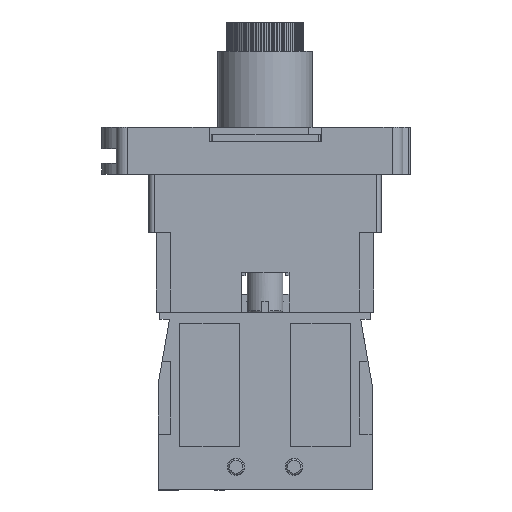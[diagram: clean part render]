
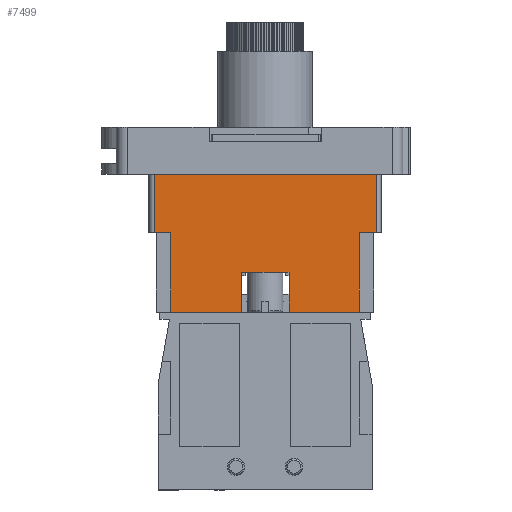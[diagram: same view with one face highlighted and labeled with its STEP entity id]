
A CAD part, left-side view. The second image highlights one B-rep face of the part: STEP entity #7499.
In plain terms, the highlighted planar face has unit normal (-1, 0, 0) as drawn and (0, -1, 0) by its records, which use the part's own axes.
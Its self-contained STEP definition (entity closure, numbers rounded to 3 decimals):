
#219 = ORIENTED_EDGE ( 'NONE', *, *, #31414, .F. ) ;
#984 = EDGE_CURVE ( 'NONE', #31559, #12456, #6550, .T. ) ;
#1021 = VERTEX_POINT ( 'NONE', #13630 ) ;
#2400 = LINE ( 'NONE', #10768, #14131 ) ;
#2426 = CARTESIAN_POINT ( 'NONE',  ( 3.3, -15., 5.5 ) ) ;
#2587 = ORIENTED_EDGE ( 'NONE', *, *, #23613, .T. ) ;
#2629 = DIRECTION ( 'NONE',  ( 1., 0., 0. ) ) ;
#3709 = CARTESIAN_POINT ( 'NONE',  ( 13., -15., 11. ) ) ;
#3855 = ORIENTED_EDGE ( 'NONE', *, *, #23417, .T. ) ;
#4325 = CARTESIAN_POINT ( 'NONE',  ( -3.3, -15., 5.5 ) ) ;
#5096 = DIRECTION ( 'NONE',  ( 1., 0., 0. ) ) ;
#5200 = ORIENTED_EDGE ( 'NONE', *, *, #7291, .T. ) ;
#5432 = VERTEX_POINT ( 'NONE', #15747 ) ;
#6111 = VECTOR ( 'NONE', #39869, 1000. ) ;
#6206 = DIRECTION ( 'NONE',  ( 0., 1., 0. ) ) ;
#6550 = LINE ( 'NONE', #4325, #36023 ) ;
#6599 = CARTESIAN_POINT ( 'NONE',  ( 16., -15., 11. ) ) ;
#7291 = EDGE_CURVE ( 'NONE', #29207, #39216, #39866, .T. ) ;
#7499 = ADVANCED_FACE ( 'NONE', ( #26053 ), #21624, .F. ) ;
#7874 = CARTESIAN_POINT ( 'NONE',  ( 13., -15., 11. ) ) ;
#8195 = VECTOR ( 'NONE', #32968, 1000. ) ;
#8287 = CARTESIAN_POINT ( 'NONE',  ( 3.3, -15., 5.5 ) ) ;
#8299 = VERTEX_POINT ( 'NONE', #12880 ) ;
#9401 = VECTOR ( 'NONE', #30472, 1000. ) ;
#10215 = DIRECTION ( 'NONE',  ( -1., 0., 0. ) ) ;
#10768 = CARTESIAN_POINT ( 'NONE',  ( -15.3, -15., 11. ) ) ;
#11486 = LINE ( 'NONE', #6599, #36543 ) ;
#11832 = LINE ( 'NONE', #16962, #16215 ) ;
#12392 = DIRECTION ( 'NONE',  ( -1., 0., 0. ) ) ;
#12456 = VERTEX_POINT ( 'NONE', #38571 ) ;
#12880 = CARTESIAN_POINT ( 'NONE',  ( -13., -15., 11. ) ) ;
#13377 = ORIENTED_EDGE ( 'NONE', *, *, #35209, .T. ) ;
#13494 = EDGE_CURVE ( 'NONE', #22416, #27567, #19386, .T. ) ;
#13630 = CARTESIAN_POINT ( 'NONE',  ( -13., -15., 0. ) ) ;
#14131 = VECTOR ( 'NONE', #32473, 1000. ) ;
#14284 = ORIENTED_EDGE ( 'NONE', *, *, #13494, .T. ) ;
#14310 = LINE ( 'NONE', #18529, #9401 ) ;
#15212 = VECTOR ( 'NONE', #29854, 1000. ) ;
#15403 = CARTESIAN_POINT ( 'NONE',  ( 14.5, -15., 11. ) ) ;
#15747 = CARTESIAN_POINT ( 'NONE',  ( 13., -15., 0. ) ) ;
#16215 = VECTOR ( 'NONE', #26839, 1000. ) ;
#16359 = DIRECTION ( 'NONE',  ( -1., 0., 0. ) ) ;
#16770 = CARTESIAN_POINT ( 'NONE',  ( -3.3, -15., 5.5 ) ) ;
#16962 = CARTESIAN_POINT ( 'NONE',  ( -3.3, -15., 5.5 ) ) ;
#16965 = VERTEX_POINT ( 'NONE', #30792 ) ;
#17174 = LINE ( 'NONE', #7874, #15212 ) ;
#17975 = AXIS2_PLACEMENT_3D ( 'NONE', #15403, #6206, #12392 ) ;
#18529 = CARTESIAN_POINT ( 'NONE',  ( 16., -15., 11. ) ) ;
#18947 = VERTEX_POINT ( 'NONE', #34485 ) ;
#19386 = LINE ( 'NONE', #8287, #6111 ) ;
#19698 = ORIENTED_EDGE ( 'NONE', *, *, #38422, .F. ) ;
#20990 = LINE ( 'NONE', #23636, #8195 ) ;
#21139 = LINE ( 'NONE', #27804, #38789 ) ;
#21424 = ORIENTED_EDGE ( 'NONE', *, *, #984, .F. ) ;
#21624 = PLANE ( 'NONE',  #17975 ) ;
#22406 = DIRECTION ( 'NONE',  ( 1., 0., 0. ) ) ;
#22416 = VERTEX_POINT ( 'NONE', #2426 ) ;
#23417 = EDGE_CURVE ( 'NONE', #18947, #8299, #11486, .T. ) ;
#23613 = EDGE_CURVE ( 'NONE', #27567, #5432, #33582, .T. ) ;
#23636 = CARTESIAN_POINT ( 'NONE',  ( 16., -15., 19. ) ) ;
#23788 = ORIENTED_EDGE ( 'NONE', *, *, #24886, .T. ) ;
#24862 = VECTOR ( 'NONE', #16359, 1000. ) ;
#24886 = EDGE_CURVE ( 'NONE', #31740, #29207, #14310, .T. ) ;
#25230 = VECTOR ( 'NONE', #2629, 1000. ) ;
#26053 = FACE_OUTER_BOUND ( 'NONE', #27030, .T. ) ;
#26839 = DIRECTION ( 'NONE',  ( 0., 0., -1. ) ) ;
#27030 = EDGE_LOOP ( 'NONE', ( #31159, #13377, #3855, #36446, #31773, #19698, #21424, #219, #14284, #2587, #37041, #23788, #5200 ) ) ;
#27192 = CARTESIAN_POINT ( 'NONE',  ( 0., -15., 5.5 ) ) ;
#27309 = CARTESIAN_POINT ( 'NONE',  ( 14.5, -15., 0. ) ) ;
#27460 = CARTESIAN_POINT ( 'NONE',  ( 14.5, -15., 0. ) ) ;
#27495 = CARTESIAN_POINT ( 'NONE',  ( 15.3, -15., 19. ) ) ;
#27567 = VERTEX_POINT ( 'NONE', #37053 ) ;
#27804 = CARTESIAN_POINT ( 'NONE',  ( -13., -15., 11. ) ) ;
#28394 = CARTESIAN_POINT ( 'NONE',  ( 15.3, -15., 11. ) ) ;
#28818 = CARTESIAN_POINT ( 'NONE',  ( -3.3, -15., 0. ) ) ;
#29207 = VERTEX_POINT ( 'NONE', #38003 ) ;
#29525 = VECTOR ( 'NONE', #31825, 1000. ) ;
#29693 = EDGE_CURVE ( 'NONE', #8299, #1021, #21139, .T. ) ;
#29854 = DIRECTION ( 'NONE',  ( 0., 0., -1. ) ) ;
#30472 = DIRECTION ( 'NONE',  ( 1., 0., 0. ) ) ;
#30792 = CARTESIAN_POINT ( 'NONE',  ( -15.3, -15., 19. ) ) ;
#31159 = ORIENTED_EDGE ( 'NONE', *, *, #35743, .F. ) ;
#31414 = EDGE_CURVE ( 'NONE', #22416, #31559, #33204, .T. ) ;
#31559 = VERTEX_POINT ( 'NONE', #27192 ) ;
#31740 = VERTEX_POINT ( 'NONE', #3709 ) ;
#31773 = ORIENTED_EDGE ( 'NONE', *, *, #35898, .T. ) ;
#31825 = DIRECTION ( 'NONE',  ( 0., 0., 1. ) ) ;
#32473 = DIRECTION ( 'NONE',  ( 0., 0., -1. ) ) ;
#32968 = DIRECTION ( 'NONE',  ( 1., 0., 0. ) ) ;
#33204 = LINE ( 'NONE', #16770, #24862 ) ;
#33582 = LINE ( 'NONE', #27309, #25230 ) ;
#34405 = EDGE_CURVE ( 'NONE', #31740, #5432, #17174, .T. ) ;
#34485 = CARTESIAN_POINT ( 'NONE',  ( -15.3, -15., 11. ) ) ;
#35200 = LINE ( 'NONE', #27460, #37167 ) ;
#35209 = EDGE_CURVE ( 'NONE', #16965, #18947, #2400, .T. ) ;
#35743 = EDGE_CURVE ( 'NONE', #16965, #39216, #20990, .T. ) ;
#35898 = EDGE_CURVE ( 'NONE', #1021, #36236, #35200, .T. ) ;
#36023 = VECTOR ( 'NONE', #10215, 1000. ) ;
#36236 = VERTEX_POINT ( 'NONE', #28818 ) ;
#36446 = ORIENTED_EDGE ( 'NONE', *, *, #29693, .T. ) ;
#36543 = VECTOR ( 'NONE', #22406, 1000. ) ;
#37041 = ORIENTED_EDGE ( 'NONE', *, *, #34405, .F. ) ;
#37053 = CARTESIAN_POINT ( 'NONE',  ( 3.3, -15., 0. ) ) ;
#37167 = VECTOR ( 'NONE', #5096, 1000. ) ;
#38003 = CARTESIAN_POINT ( 'NONE',  ( 15.3, -15., 11. ) ) ;
#38422 = EDGE_CURVE ( 'NONE', #12456, #36236, #11832, .T. ) ;
#38571 = CARTESIAN_POINT ( 'NONE',  ( -3.3, -15., 5.5 ) ) ;
#38789 = VECTOR ( 'NONE', #40485, 1000. ) ;
#39216 = VERTEX_POINT ( 'NONE', #27495 ) ;
#39866 = LINE ( 'NONE', #28394, #29525 ) ;
#39869 = DIRECTION ( 'NONE',  ( 0., 0., -1. ) ) ;
#40485 = DIRECTION ( 'NONE',  ( 0., 0., -1. ) ) ;
